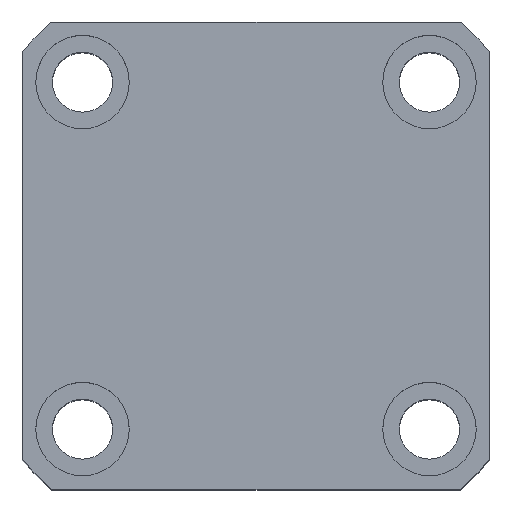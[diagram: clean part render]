
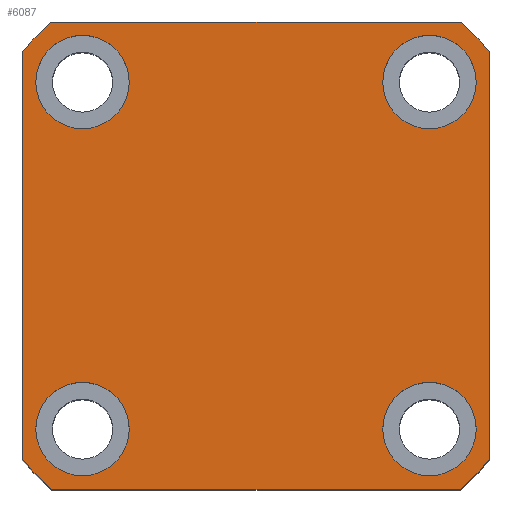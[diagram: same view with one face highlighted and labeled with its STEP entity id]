
A CAD part, top view. The second image highlights one B-rep face of the part: STEP entity #6087.
In plain terms, the highlighted planar face has unit normal (0, 0, 1).
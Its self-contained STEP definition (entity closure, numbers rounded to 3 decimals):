
#3391=PLANE('',#12216);
#3701=LINE('',#14635,#4598);
#3709=LINE('',#14932,#4606);
#3713=LINE('',#14941,#4610);
#3717=LINE('',#14950,#4614);
#4598=VECTOR('',#12680,1.);
#4606=VECTOR('',#12812,1.);
#4610=VECTOR('',#12818,1.);
#4614=VECTOR('',#12824,1.);
#6087=ADVANCED_FACE('',(#6632,#6633,#6634,#6635,#6636),#3391,.T.);
#6632=FACE_BOUND('',#6834,.T.);
#6633=FACE_BOUND('',#6835,.T.);
#6634=FACE_BOUND('',#6836,.T.);
#6635=FACE_BOUND('',#6837,.T.);
#6636=FACE_BOUND('',#6838,.T.);
#6834=EDGE_LOOP('',(#7490));
#6835=EDGE_LOOP('',(#7491));
#6836=EDGE_LOOP('',(#7492));
#6837=EDGE_LOOP('',(#7493));
#6838=EDGE_LOOP('',(#7494,#7495,#7496,#7497,#7498,#7499,#7500,#7501));
#7490=ORIENTED_EDGE('',*,*,#10824,.F.);
#7491=ORIENTED_EDGE('',*,*,#10826,.F.);
#7492=ORIENTED_EDGE('',*,*,#10828,.F.);
#7493=ORIENTED_EDGE('',*,*,#10830,.F.);
#7494=ORIENTED_EDGE('',*,*,#10833,.T.);
#7495=ORIENTED_EDGE('',*,*,#10844,.T.);
#7496=ORIENTED_EDGE('',*,*,#10837,.T.);
#7497=ORIENTED_EDGE('',*,*,#10845,.T.);
#7498=ORIENTED_EDGE('',*,*,#10780,.T.);
#7499=ORIENTED_EDGE('',*,*,#10846,.T.);
#7500=ORIENTED_EDGE('',*,*,#10841,.T.);
#7501=ORIENTED_EDGE('',*,*,#10847,.T.);
#9903=VERTEX_POINT('',#14633);
#9905=VERTEX_POINT('',#14636);
#9945=VERTEX_POINT('',#14910);
#9947=VERTEX_POINT('',#14915);
#9949=VERTEX_POINT('',#14920);
#9951=VERTEX_POINT('',#14925);
#9953=VERTEX_POINT('',#14930);
#9955=VERTEX_POINT('',#14933);
#9957=VERTEX_POINT('',#14939);
#9959=VERTEX_POINT('',#14942);
#9961=VERTEX_POINT('',#14948);
#9963=VERTEX_POINT('',#14951);
#10780=EDGE_CURVE('',#9905,#9903,#3701,.T.);
#10824=EDGE_CURVE('',#9945,#9945,#12058,.T.);
#10826=EDGE_CURVE('',#9947,#9947,#12060,.T.);
#10828=EDGE_CURVE('',#9949,#9949,#12062,.T.);
#10830=EDGE_CURVE('',#9951,#9951,#12064,.T.);
#10833=EDGE_CURVE('',#9955,#9953,#3709,.T.);
#10837=EDGE_CURVE('',#9959,#9957,#3713,.T.);
#10841=EDGE_CURVE('',#9963,#9961,#3717,.T.);
#10844=EDGE_CURVE('',#9953,#9959,#12066,.T.);
#10845=EDGE_CURVE('',#9957,#9905,#12067,.T.);
#10846=EDGE_CURVE('',#9903,#9963,#12068,.T.);
#10847=EDGE_CURVE('',#9961,#9955,#12069,.T.);
#12058=CIRCLE('',#12197,7.);
#12060=CIRCLE('',#12200,7.);
#12062=CIRCLE('',#12203,7.);
#12064=CIRCLE('',#12206,7.);
#12066=CIRCLE('',#12212,46.5);
#12067=CIRCLE('',#12213,46.5);
#12068=CIRCLE('',#12214,46.5);
#12069=CIRCLE('',#12215,46.5);
#12197=AXIS2_PLACEMENT_3D('',#14909,#12787,#12788);
#12200=AXIS2_PLACEMENT_3D('',#14914,#12793,#12794);
#12203=AXIS2_PLACEMENT_3D('',#14919,#12799,#12800);
#12206=AXIS2_PLACEMENT_3D('',#14924,#12805,#12806);
#12212=AXIS2_PLACEMENT_3D('',#14956,#12829,#12830);
#12213=AXIS2_PLACEMENT_3D('',#14957,#12831,#12832);
#12214=AXIS2_PLACEMENT_3D('',#14958,#12833,#12834);
#12215=AXIS2_PLACEMENT_3D('',#14959,#12835,#12836);
#12216=AXIS2_PLACEMENT_3D('',#14960,#12837,#12838);
#12680=DIRECTION('',(0.,-1.,0.));
#12787=DIRECTION('',(0.,0.,1.));
#12788=DIRECTION('',(1.,0.,0.));
#12793=DIRECTION('',(0.,0.,1.));
#12794=DIRECTION('',(1.,0.,0.));
#12799=DIRECTION('',(0.,0.,1.));
#12800=DIRECTION('',(1.,0.,0.));
#12805=DIRECTION('',(0.,0.,1.));
#12806=DIRECTION('',(1.,0.,0.));
#12812=DIRECTION('',(0.,1.,0.));
#12818=DIRECTION('',(-1.,0.,0.));
#12824=DIRECTION('',(1.,0.,0.));
#12829=DIRECTION('',(0.,0.,1.));
#12830=DIRECTION('',(1.,0.,0.));
#12831=DIRECTION('',(0.,0.,1.));
#12832=DIRECTION('',(1.,0.,0.));
#12833=DIRECTION('',(0.,0.,1.));
#12834=DIRECTION('',(1.,0.,0.));
#12835=DIRECTION('',(0.,0.,1.));
#12836=DIRECTION('',(1.,0.,0.));
#12837=DIRECTION('',(0.,0.,1.));
#12838=DIRECTION('',(-1.,0.,0.));
#14633=CARTESIAN_POINT('',(-9.262,-48.842,66.036));
#14635=CARTESIAN_POINT('',(-9.262,16.772,66.036));
#14636=CARTESIAN_POINT('',(-9.262,12.387,66.036));
#14909=CARTESIAN_POINT('',(-0.262,-44.228,66.036));
#14910=CARTESIAN_POINT('',(6.738,-44.228,66.036));
#14914=CARTESIAN_POINT('',(51.738,-44.228,66.036));
#14915=CARTESIAN_POINT('',(58.738,-44.228,66.036));
#14919=CARTESIAN_POINT('',(51.738,7.772,66.036));
#14920=CARTESIAN_POINT('',(58.738,7.772,66.036));
#14924=CARTESIAN_POINT('',(-0.262,7.772,66.036));
#14925=CARTESIAN_POINT('',(6.738,7.772,66.036));
#14930=CARTESIAN_POINT('',(60.738,12.387,66.036));
#14932=CARTESIAN_POINT('',(60.738,16.772,66.036));
#14933=CARTESIAN_POINT('',(60.738,-48.842,66.036));
#14939=CARTESIAN_POINT('',(-4.876,16.772,66.036));
#14941=CARTESIAN_POINT('',(-9.262,16.772,66.036));
#14942=CARTESIAN_POINT('',(56.353,16.772,66.036));
#14948=CARTESIAN_POINT('',(56.353,-53.228,66.036));
#14950=CARTESIAN_POINT('',(-9.262,-53.228,66.036));
#14951=CARTESIAN_POINT('',(-4.876,-53.228,66.036));
#14956=CARTESIAN_POINT('',(25.738,-18.228,66.036));
#14957=CARTESIAN_POINT('',(25.738,-18.228,66.036));
#14958=CARTESIAN_POINT('',(25.738,-18.228,66.036));
#14959=CARTESIAN_POINT('',(25.738,-18.228,66.036));
#14960=CARTESIAN_POINT('',(25.738,-18.228,66.036));
